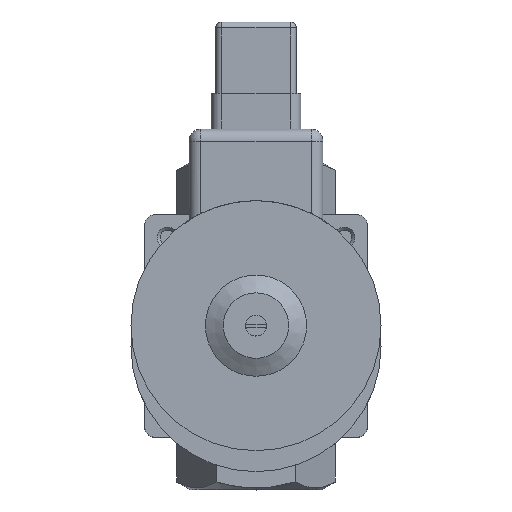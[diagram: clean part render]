
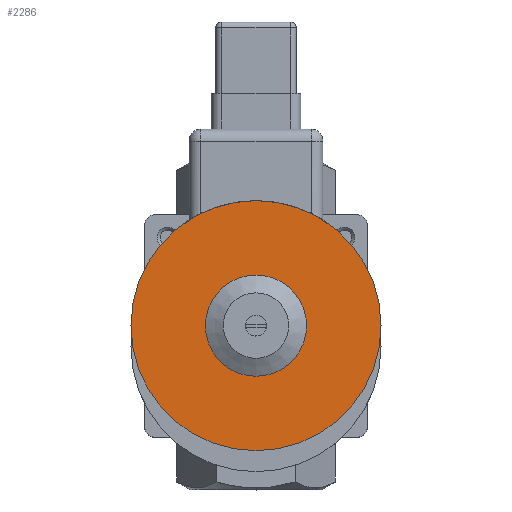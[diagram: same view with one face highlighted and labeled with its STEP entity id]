
A CAD part, top view. The second image highlights one B-rep face of the part: STEP entity #2286.
In plain terms, the highlighted planar face has unit normal (0, 0, 1).
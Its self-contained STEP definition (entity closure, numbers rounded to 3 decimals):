
#2286 = ADVANCED_FACE( '', ( #3763, #3764 ), #3765, .F. );
#3763 = FACE_BOUND( '', #7852, .T. );
#3764 = FACE_OUTER_BOUND( '', #7853, .T. );
#3765 = PLANE( '', #7854 );
#7852 = EDGE_LOOP( '', ( #11504 ) );
#7853 = EDGE_LOOP( '', ( #11505 ) );
#7854 = AXIS2_PLACEMENT_3D( '', #11506, #11507, #11508 );
#11504 = ORIENTED_EDGE( '', *, *, #12348, .T. );
#11505 = ORIENTED_EDGE( '', *, *, #12338, .F. );
#11506 = CARTESIAN_POINT( '', ( 0., -7., 60. ) );
#11507 = DIRECTION( '', ( 0., 0., -1. ) );
#11508 = DIRECTION( '', ( -1., 0., 0. ) );
#12338 = EDGE_CURVE( '', #13932, #13932, #13933, .T. );
#12348 = EDGE_CURVE( '', #13950, #13950, #13951, .T. );
#13932 = VERTEX_POINT( '', #17618 );
#13933 = CIRCLE( '', #17619, 42. );
#13950 = VERTEX_POINT( '', #17640 );
#13951 = CIRCLE( '', #17641, 13.75 );
#17618 = CARTESIAN_POINT( '', ( 0., 35., 60. ) );
#17619 = AXIS2_PLACEMENT_3D( '', #19480, #19481, #19482 );
#17640 = CARTESIAN_POINT( '', ( 0., 6.75, 60. ) );
#17641 = AXIS2_PLACEMENT_3D( '', #19502, #19503, #19504 );
#19480 = CARTESIAN_POINT( '', ( 0., -7., 60. ) );
#19481 = DIRECTION( '', ( 0., 0., -1. ) );
#19482 = DIRECTION( '', ( 0., 1., 0. ) );
#19502 = CARTESIAN_POINT( '', ( 0., -7., 60. ) );
#19503 = DIRECTION( '', ( 0., 0., -1. ) );
#19504 = DIRECTION( '', ( 0., 1., 0. ) );
